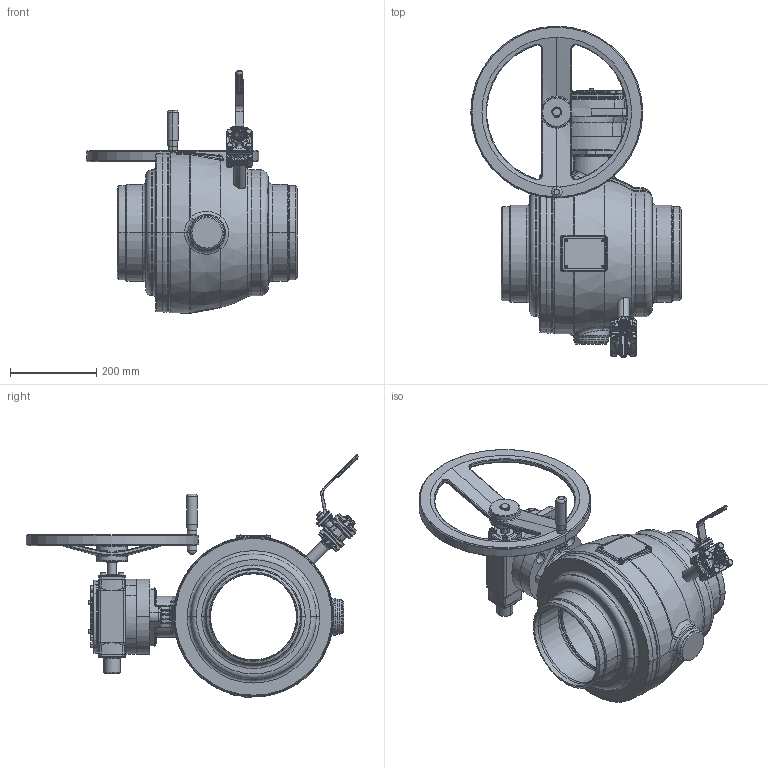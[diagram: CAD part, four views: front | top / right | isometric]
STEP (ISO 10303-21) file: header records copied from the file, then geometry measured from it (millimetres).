
FILE_DESCRIPTION((''),'2;1');
FILE_NAME('ASM0001_ASM','2026-01-28T10:20:49',('schwaba'),('KLINGER'),'CREO PARAMETRIC BY PTC INC, 2023014','CREO PARAMETRIC BY PTC INC, 2023014','');
FILE_SCHEMA(('CONFIG_CONTROL_DESIGN'));
Products named in the file (8): KHSVI_200_FG_FR_WE_F14_ENTL; GS80_3_F14_53; AUFSATZDECKEL_GS63-GS80; ZYLSCHR-ISKT--M8X25---8_8; AHR_400_20_M_BALLENGRIFF; DIN471_20X1_2; GS80_3_53_F14------------AHR400_ASM; ASM0001_ASM
Assembly tree (10 placements, depth 3):
  ASM0001_ASM
    KHSVI_200_FG_FR_WE_F14_ENTL
    GS80_3_53_F14------------AHR400_ASM
      GS80_3_F14_53
      AUFSATZDECKEL_GS63-GS80
      ZYLSCHR-ISKT--M8X25---8_8  x4
      AHR_400_20_M_BALLENGRIFF
      DIN471_20X1_2
Bounding box: 489.5 x 772.07 x 565.08 mm (x, y, z)
Volume: 15979160.8 mm3; surface area: 2380873.9 mm2
Topology: 9 solids, 16 shells, 4215 faces, 10053 edges, 5983 vertices
Faces by surface type: plane 1206, cylinder 1134, bspline 625, torus 617, cone 507, sphere 97, revolution 16, extrusion 13
Entity records: 226203 total; most frequent: CARTESIAN_POINT 135020, ORIENTED_EDGE 19712, DIRECTION 18438, EDGE_CURVE 9859, AXIS2_PLACEMENT_3D 7709, VERTEX_POINT 5878, EDGE_LOOP 4405, CIRCLE 4189
